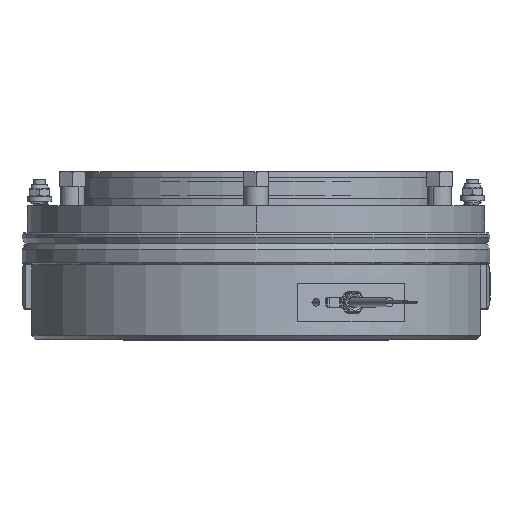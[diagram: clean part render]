
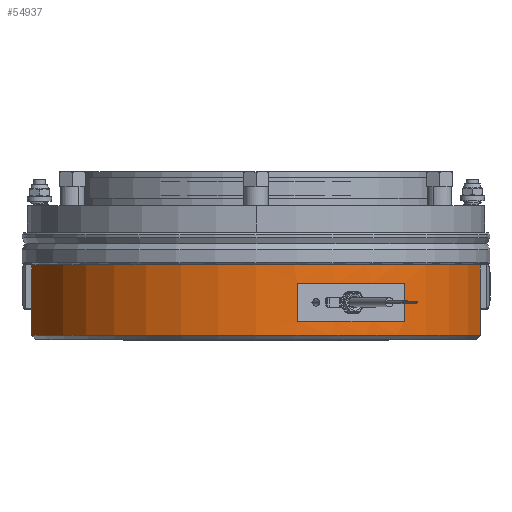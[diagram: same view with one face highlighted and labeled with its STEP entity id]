
A CAD part, front view. The second image highlights one B-rep face of the part: STEP entity #54937.
In plain terms, the highlighted cylindrical face has radius 152 mm (diameter 304 mm), a partial arc.
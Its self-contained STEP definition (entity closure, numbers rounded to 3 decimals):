
#1307 = CARTESIAN_POINT ( 'NONE',  ( 147.048, -38.483, 3.5 ) ) ;
#2609 = ORIENTED_EDGE ( 'NONE', *, *, #42641, .T. ) ;
#2923 = VERTEX_POINT ( 'NONE', #26257 ) ;
#5048 = CARTESIAN_POINT ( 'NONE',  ( -147.048, -38.483, 49.5 ) ) ;
#7401 = CIRCLE ( 'NONE', #44533, 152. ) ;
#8171 = DIRECTION ( 'NONE',  ( 0., 0., 1. ) ) ;
#9408 = EDGE_CURVE ( 'NONE', #36348, #24619, #7401, .T. ) ;
#11958 = EDGE_CURVE ( 'NONE', #28745, #2923, #16870, .T. ) ;
#12044 = DIRECTION ( 'NONE',  ( 0., 0., 1. ) ) ;
#13082 = ORIENTED_EDGE ( 'NONE', *, *, #9408, .T. ) ;
#14342 = DIRECTION ( 'NONE',  ( 0., 0., -1. ) ) ;
#14764 = VECTOR ( 'NONE', #50636, 1000. ) ;
#16152 = ORIENTED_EDGE ( 'NONE', *, *, #11958, .F. ) ;
#16417 = CARTESIAN_POINT ( 'NONE',  ( -147.048, -38.483, 3.5 ) ) ;
#16418 = DIRECTION ( 'NONE',  ( 0., 0., 1. ) ) ;
#16870 = LINE ( 'NONE', #22681, #14764 ) ;
#17123 = LINE ( 'NONE', #71647, #68846 ) ;
#18683 = FACE_OUTER_BOUND ( 'NONE', #52046, .T. ) ;
#20059 = AXIS2_PLACEMENT_3D ( 'NONE', #68416, #35384, #35729 ) ;
#20964 = VECTOR ( 'NONE', #16418, 1000. ) ;
#21628 = EDGE_CURVE ( 'NONE', #46293, #58093, #49445, .T. ) ;
#22681 = CARTESIAN_POINT ( 'NONE',  ( 27.082, -149.568, -6.885 ) ) ;
#24619 = VERTEX_POINT ( 'NONE', #5048 ) ;
#25971 = LINE ( 'NONE', #31776, #65420 ) ;
#26257 = CARTESIAN_POINT ( 'NONE',  ( 27.082, -149.568, 12.5 ) ) ;
#28745 = VERTEX_POINT ( 'NONE', #58829 ) ;
#31776 = CARTESIAN_POINT ( 'NONE',  ( 147.048, -38.483, 26.5 ) ) ;
#32474 = ORIENTED_EDGE ( 'NONE', *, *, #47716, .F. ) ;
#34066 = CIRCLE ( 'NONE', #59596, 152. ) ;
#34134 = CARTESIAN_POINT ( 'NONE',  ( 0., 0., 49.5 ) ) ;
#35384 = DIRECTION ( 'NONE',  ( 0., 0., -1. ) ) ;
#35422 = DIRECTION ( 'NONE',  ( -1., 0., 0. ) ) ;
#35729 = DIRECTION ( 'NONE',  ( -1., 0., 0. ) ) ;
#36273 = ORIENTED_EDGE ( 'NONE', *, *, #48518, .F. ) ;
#36348 = VERTEX_POINT ( 'NONE', #44689 ) ;
#37989 = AXIS2_PLACEMENT_3D ( 'NONE', #63183, #47541, #58779 ) ;
#40165 = CIRCLE ( 'NONE', #67999, 152. ) ;
#40222 = ORIENTED_EDGE ( 'NONE', *, *, #50931, .F. ) ;
#42641 = EDGE_CURVE ( 'NONE', #48648, #63148, #47300, .T. ) ;
#43240 = CYLINDRICAL_SURFACE ( 'NONE', #20059, 152. ) ;
#44051 = CARTESIAN_POINT ( 'NONE',  ( 97.167, -116.887, -6.885 ) ) ;
#44533 = AXIS2_PLACEMENT_3D ( 'NONE', #34134, #49474, #56300 ) ;
#44689 = CARTESIAN_POINT ( 'NONE',  ( 147.048, -38.483, 49.5 ) ) ;
#45102 = DIRECTION ( 'NONE',  ( 1., 0., 0. ) ) ;
#45463 = CARTESIAN_POINT ( 'NONE',  ( 0., 0., 37.5 ) ) ;
#46293 = VERTEX_POINT ( 'NONE', #46463 ) ;
#46463 = CARTESIAN_POINT ( 'NONE',  ( 97.167, -116.887, 12.5 ) ) ;
#47300 = CIRCLE ( 'NONE', #37989, 152. ) ;
#47541 = DIRECTION ( 'NONE',  ( 0., 0., 1. ) ) ;
#47716 = EDGE_CURVE ( 'NONE', #36348, #63148, #25971, .T. ) ;
#48273 = ORIENTED_EDGE ( 'NONE', *, *, #21628, .F. ) ;
#48518 = EDGE_CURVE ( 'NONE', #48648, #24619, #17123, .T. ) ;
#48648 = VERTEX_POINT ( 'NONE', #16417 ) ;
#49445 = LINE ( 'NONE', #44051, #20964 ) ;
#49474 = DIRECTION ( 'NONE',  ( 0., 0., -1. ) ) ;
#50636 = DIRECTION ( 'NONE',  ( 0., 0., -1. ) ) ;
#50931 = EDGE_CURVE ( 'NONE', #2923, #46293, #40165, .T. ) ;
#51122 = CARTESIAN_POINT ( 'NONE',  ( 97.167, -116.887, 37.5 ) ) ;
#52046 = EDGE_LOOP ( 'NONE', ( #36273, #2609, #32474, #13082 ) ) ;
#54937 = ADVANCED_FACE ( 'NONE', ( #58237, #18683 ), #43240, .T. ) ;
#55151 = ORIENTED_EDGE ( 'NONE', *, *, #62236, .F. ) ;
#55986 = DIRECTION ( 'NONE',  ( 0., 0., -1. ) ) ;
#56300 = DIRECTION ( 'NONE',  ( -1., 0., 0. ) ) ;
#58093 = VERTEX_POINT ( 'NONE', #51122 ) ;
#58237 = FACE_BOUND ( 'NONE', #58432, .T. ) ;
#58432 = EDGE_LOOP ( 'NONE', ( #55151, #48273, #40222, #16152 ) ) ;
#58779 = DIRECTION ( 'NONE',  ( -1., 0., 0. ) ) ;
#58829 = CARTESIAN_POINT ( 'NONE',  ( 27.082, -149.568, 37.5 ) ) ;
#59596 = AXIS2_PLACEMENT_3D ( 'NONE', #45463, #55986, #45102 ) ;
#62236 = EDGE_CURVE ( 'NONE', #58093, #28745, #34066, .T. ) ;
#63148 = VERTEX_POINT ( 'NONE', #1307 ) ;
#63183 = CARTESIAN_POINT ( 'NONE',  ( 0., 0., 3.5 ) ) ;
#65420 = VECTOR ( 'NONE', #14342, 1000. ) ;
#67999 = AXIS2_PLACEMENT_3D ( 'NONE', #68093, #8171, #35422 ) ;
#68093 = CARTESIAN_POINT ( 'NONE',  ( 0., 0., 12.5 ) ) ;
#68416 = CARTESIAN_POINT ( 'NONE',  ( 0., 0., -6.885 ) ) ;
#68846 = VECTOR ( 'NONE', #12044, 1000. ) ;
#71647 = CARTESIAN_POINT ( 'NONE',  ( -147.048, -38.483, 26.5 ) ) ;
